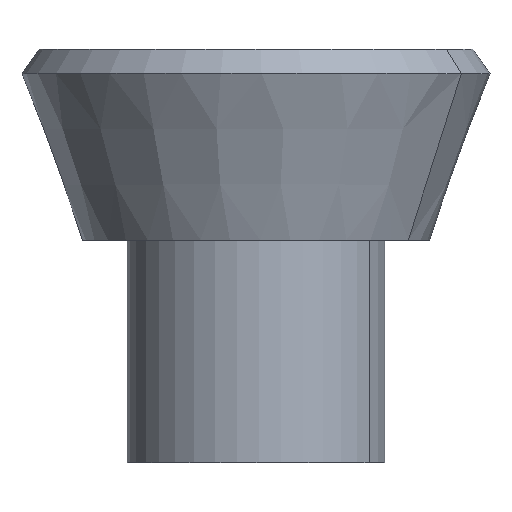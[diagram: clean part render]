
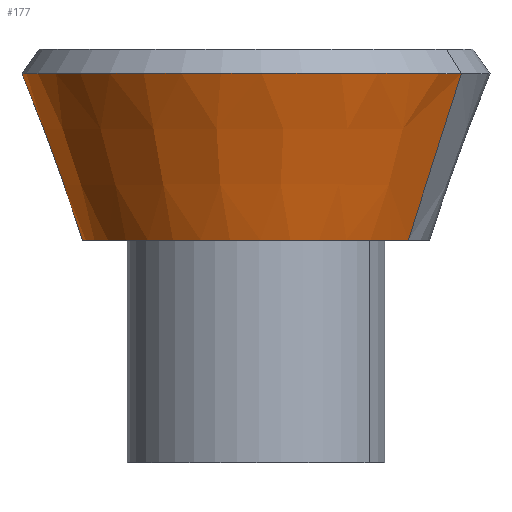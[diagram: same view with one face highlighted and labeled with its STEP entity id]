
A CAD part, top view. The second image highlights one B-rep face of the part: STEP entity #177.
In plain terms, the highlighted conical face has half-angle 20 degrees and reference radius 117 mm.
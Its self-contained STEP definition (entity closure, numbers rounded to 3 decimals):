
#114=CARTESIAN_POINT('Axis2P3D Location',(0.,0.,0.)) ;
#118=CARTESIAN_POINT('Vertex',(102.677,0.,56.093)) ;
#120=CARTESIAN_POINT('Vertex',(-102.677,0.,-56.093)) ;
#147=CARTESIAN_POINT('Axis2P3D Location',(0.,0.,0.)) ;
#152=CARTESIAN_POINT('Line Origine',(120.621,56.177,65.896)) ;
#156=CARTESIAN_POINT('Vertex',(138.565,112.355,75.698)) ;
#159=CARTESIAN_POINT('Axis2P3D Location',(0.,112.355,0.)) ;
#163=CARTESIAN_POINT('Vertex',(-138.565,112.355,-75.698)) ;
#166=CARTESIAN_POINT('Line Origine',(-120.621,56.177,-65.896)) ;
#115=DIRECTION('Axis2P3D Direction',(0.,-1.,0.)) ;
#148=DIRECTION('Axis2P3D Direction',(-0.,1.,-0.)) ;
#149=DIRECTION('Axis2P3D XDirection',(0.878,0.,0.479)) ;
#153=DIRECTION('Vector Direction',(0.3,0.94,0.164)) ;
#160=DIRECTION('Axis2P3D Direction',(0.,1.,-0.)) ;
#167=DIRECTION('Vector Direction',(-0.3,0.94,-0.164)) ;
#116=AXIS2_PLACEMENT_3D('Circle Axis2P3D',#114,#115,$) ;
#150=AXIS2_PLACEMENT_3D('Cone Axis2P3D',#147,#148,#149) ;
#161=AXIS2_PLACEMENT_3D('Circle Axis2P3D',#159,#160,$) ;
#172=ORIENTED_EDGE('',*,*,#122,.F.) ;
#173=ORIENTED_EDGE('',*,*,#158,.T.) ;
#174=ORIENTED_EDGE('',*,*,#165,.T.) ;
#175=ORIENTED_EDGE('',*,*,#170,.F.) ;
#154=VECTOR('Line Direction',#153,1.) ;
#168=VECTOR('Line Direction',#167,1.) ;
#177=ADVANCED_FACE('PartBody',(#176),#151,.T.) ;
#117=CIRCLE('generated circle',#116,117.) ;
#162=CIRCLE('generated circle',#161,157.894) ;
#151=CONICAL_SURFACE('Cone',#150,117.,0.349) ;
#122=EDGE_CURVE('',#119,#121,#117,.T.) ;
#158=EDGE_CURVE('',#119,#157,#155,.T.) ;
#165=EDGE_CURVE('',#157,#164,#162,.F.) ;
#170=EDGE_CURVE('',#121,#164,#169,.T.) ;
#171=EDGE_LOOP('',(#172,#173,#174,#175)) ;
#176=FACE_OUTER_BOUND('',#171,.T.) ;
#155=LINE('Line',#152,#154) ;
#169=LINE('Line',#166,#168) ;
#119=VERTEX_POINT('',#118) ;
#121=VERTEX_POINT('',#120) ;
#157=VERTEX_POINT('',#156) ;
#164=VERTEX_POINT('',#163) ;
